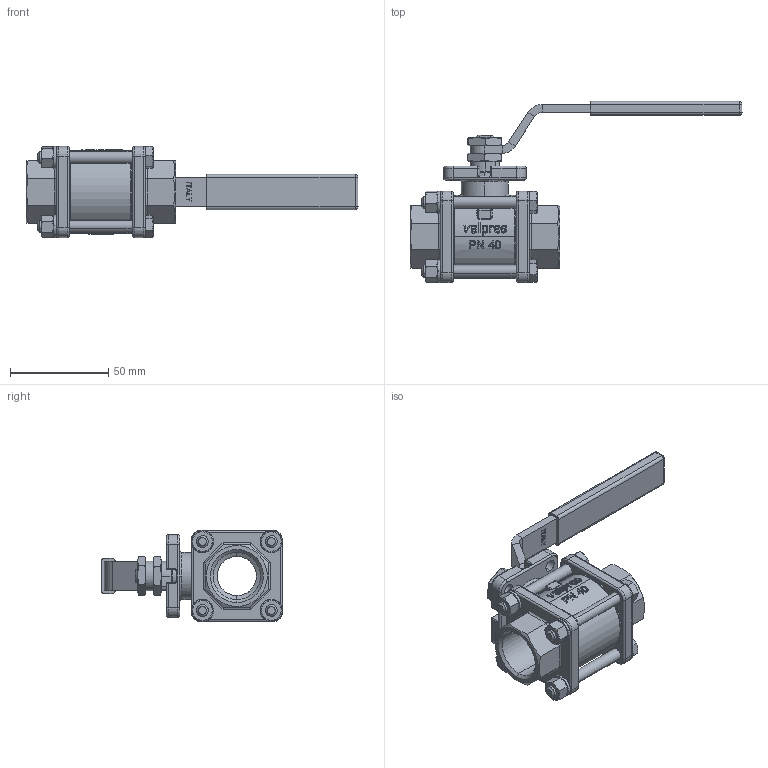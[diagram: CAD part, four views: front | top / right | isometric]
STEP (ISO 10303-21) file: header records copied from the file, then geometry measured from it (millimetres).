
FILE_DESCRIPTION (( 'STEP AP203' ), '1' );
FILE_NAME ('71000005.STEP', '2008-10-15T08:13:27', ( '.' ), ( '.' ), 'SwSTEP 2.0', 'SolidWorks 2007', '' );
FILE_SCHEMA (( 'CONFIG_CONTROL_DESIGN' ));
Products named in the file (1): 71000005
Bounding box: 169.1 x 92.3 x 46.62 mm (x, y, z)
Volume: 110889.7 mm3; surface area: 44128 mm2
Topology: 2 solids, 2 shells, 1272 faces, 3110 edges, 1899 vertices
Faces by surface type: plane 395, bspline 339, cylinder 334, cone 201, torus 3
Entity records: 77166 total; most frequent: CARTESIAN_POINT 49790, ORIENTED_EDGE 6180, DIRECTION 4941, EDGE_CURVE 3090, VERTEX_POINT 1899, AXIS2_PLACEMENT_3D 1835, EDGE_LOOP 1383, ADVANCED_FACE 1272
